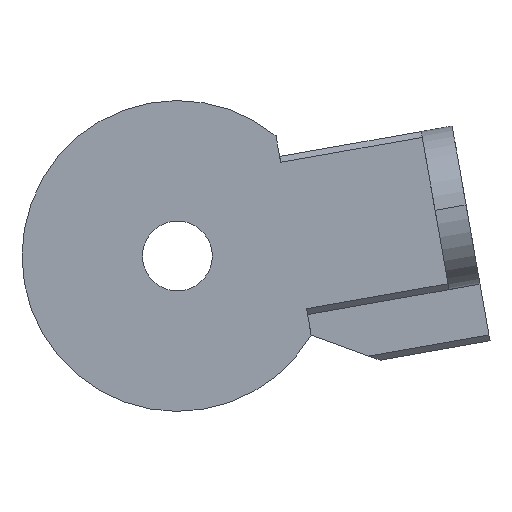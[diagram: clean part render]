
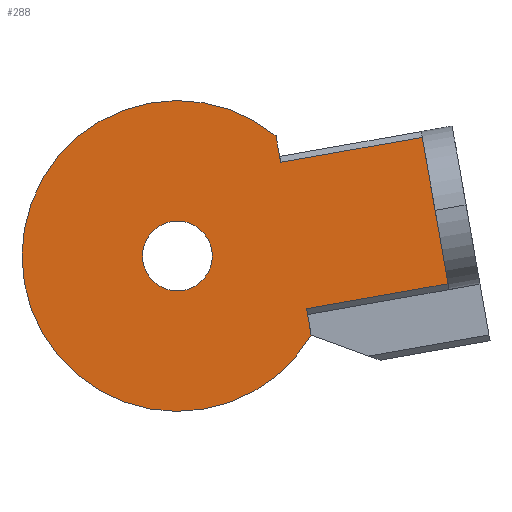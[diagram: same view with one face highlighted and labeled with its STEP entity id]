
A CAD part, front view. The second image highlights one B-rep face of the part: STEP entity #288.
In plain terms, the highlighted planar face has unit normal (0, -1, 0) as drawn and (0, 0, -1) by its records, which use the part's own axes.
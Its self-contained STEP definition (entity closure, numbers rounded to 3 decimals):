
#10 = CIRCLE ( 'NONE', #286, 10. ) ;
#13 = FACE_OUTER_BOUND ( 'NONE', #344, .T. ) ;
#23 = CIRCLE ( 'NONE', #760, 44.54 ) ;
#32 = DIRECTION ( 'NONE',  ( 0., 0., -1. ) ) ;
#33 = VERTEX_POINT ( 'NONE', #402 ) ;
#45 = EDGE_CURVE ( 'NONE', #705, #604, #561, .T. ) ;
#61 = CARTESIAN_POINT ( 'NONE',  ( 28.873, 33.805, -22.873 ) ) ;
#73 = EDGE_CURVE ( 'NONE', #280, #183, #547, .T. ) ;
#77 = LINE ( 'NONE', #212, #404 ) ;
#78 = CARTESIAN_POINT ( 'NONE',  ( 21.173, 75., -22.873 ) ) ;
#84 = ORIENTED_EDGE ( 'NONE', *, *, #73, .F. ) ;
#107 = DIRECTION ( 'NONE',  ( -1., 0., 0. ) ) ;
#141 = DIRECTION ( 'NONE',  ( 0., 0., -1. ) ) ;
#146 = VECTOR ( 'NONE', #366, 1000. ) ;
#166 = DIRECTION ( 'NONE',  ( 0., -1., 0. ) ) ;
#169 = VECTOR ( 'NONE', #285, 1000. ) ;
#183 = VERTEX_POINT ( 'NONE', #197 ) ;
#197 = CARTESIAN_POINT ( 'NONE',  ( -29.127, 33.805, -22.873 ) ) ;
#212 = CARTESIAN_POINT ( 'NONE',  ( 21.173, 32.364, -22.873 ) ) ;
#214 = CARTESIAN_POINT ( 'NONE',  ( -0.127, 0., -22.873 ) ) ;
#217 = DIRECTION ( 'NONE',  ( -1., 0., 0. ) ) ;
#224 = DIRECTION ( 'NONE',  ( 0., 0., -1. ) ) ;
#226 = DIRECTION ( 'NONE',  ( -1., 0., 0. ) ) ;
#230 = ORIENTED_EDGE ( 'NONE', *, *, #869, .T. ) ;
#245 = CARTESIAN_POINT ( 'NONE',  ( -0.127, 33.805, -22.873 ) ) ;
#250 = LINE ( 'NONE', #742, #169 ) ;
#280 = VERTEX_POINT ( 'NONE', #819 ) ;
#284 = VERTEX_POINT ( 'NONE', #78 ) ;
#285 = DIRECTION ( 'NONE',  ( 0., 1., 0. ) ) ;
#286 = AXIS2_PLACEMENT_3D ( 'NONE', #349, #141, #650 ) ;
#288 = ADVANCED_FACE ( 'NONE', ( #13, #697 ), #573, .T. ) ;
#296 = CARTESIAN_POINT ( 'NONE',  ( -0.127, 75., -22.873 ) ) ;
#299 = DIRECTION ( 'NONE',  ( 0., 1., 0. ) ) ;
#300 = LINE ( 'NONE', #657, #408 ) ;
#307 = CARTESIAN_POINT ( 'NONE',  ( -0.127, -10., -22.873 ) ) ;
#318 = ORIENTED_EDGE ( 'NONE', *, *, #948, .T. ) ;
#319 = EDGE_CURVE ( 'NONE', #33, #183, #916, .T. ) ;
#339 = ORIENTED_EDGE ( 'NONE', *, *, #319, .T. ) ;
#344 = EDGE_LOOP ( 'NONE', ( #592, #555, #667, #318, #339, #84, #230, #931 ) ) ;
#349 = CARTESIAN_POINT ( 'NONE',  ( -0.127, 0., -22.873 ) ) ;
#350 = VERTEX_POINT ( 'NONE', #577 ) ;
#366 = DIRECTION ( 'NONE',  ( -1., 0., 0. ) ) ;
#369 = AXIS2_PLACEMENT_3D ( 'NONE', #470, #32, #701 ) ;
#374 = DIRECTION ( 'NONE',  ( 0., 0., -1. ) ) ;
#402 = CARTESIAN_POINT ( 'NONE',  ( -0.127, -44.54, -22.873 ) ) ;
#404 = VECTOR ( 'NONE', #166, 1000. ) ;
#408 = VECTOR ( 'NONE', #217, 1000. ) ;
#454 = CARTESIAN_POINT ( 'NONE',  ( -0.127, 0., -22.873 ) ) ;
#470 = CARTESIAN_POINT ( 'NONE',  ( -0.127, 0., -22.873 ) ) ;
#520 = VECTOR ( 'NONE', #107, 1000. ) ;
#528 = AXIS2_PLACEMENT_3D ( 'NONE', #214, #735, #820 ) ;
#547 = LINE ( 'NONE', #903, #520 ) ;
#555 = ORIENTED_EDGE ( 'NONE', *, *, #904, .T. ) ;
#560 = CARTESIAN_POINT ( 'NONE',  ( -21.427, 75., -22.873 ) ) ;
#561 = LINE ( 'NONE', #245, #864 ) ;
#573 = PLANE ( 'NONE',  #640 ) ;
#577 = CARTESIAN_POINT ( 'NONE',  ( -0.127, 10., -22.873 ) ) ;
#592 = ORIENTED_EDGE ( 'NONE', *, *, #862, .F. ) ;
#604 = VERTEX_POINT ( 'NONE', #860 ) ;
#610 = EDGE_CURVE ( 'NONE', #946, #350, #675, .T. ) ;
#640 = AXIS2_PLACEMENT_3D ( 'NONE', #660, #224, #226 ) ;
#650 = DIRECTION ( 'NONE',  ( 0., 1., 0. ) ) ;
#657 = CARTESIAN_POINT ( 'NONE',  ( -0.127, 75., -22.873 ) ) ;
#660 = CARTESIAN_POINT ( 'NONE',  ( -0.127, 32.364, -22.873 ) ) ;
#667 = ORIENTED_EDGE ( 'NONE', *, *, #45, .F. ) ;
#675 = CIRCLE ( 'NONE', #369, 10. ) ;
#692 = DIRECTION ( 'NONE',  ( -1., 0., 0. ) ) ;
#697 = FACE_BOUND ( 'NONE', #717, .T. ) ;
#701 = DIRECTION ( 'NONE',  ( 0., 1., 0. ) ) ;
#705 = VERTEX_POINT ( 'NONE', #61 ) ;
#717 = EDGE_LOOP ( 'NONE', ( #753, #769 ) ) ;
#735 = DIRECTION ( 'NONE',  ( 0., 0., -1. ) ) ;
#740 = EDGE_CURVE ( 'NONE', #350, #946, #10, .T. ) ;
#742 = CARTESIAN_POINT ( 'NONE',  ( -21.427, 75., -22.873 ) ) ;
#753 = ORIENTED_EDGE ( 'NONE', *, *, #610, .F. ) ;
#755 = VERTEX_POINT ( 'NONE', #560 ) ;
#760 = AXIS2_PLACEMENT_3D ( 'NONE', #454, #374, #299 ) ;
#764 = CARTESIAN_POINT ( 'NONE',  ( -0.063, 75., -22.873 ) ) ;
#769 = ORIENTED_EDGE ( 'NONE', *, *, #740, .F. ) ;
#787 = EDGE_CURVE ( 'NONE', #908, #755, #858, .T. ) ;
#819 = CARTESIAN_POINT ( 'NONE',  ( -21.427, 33.805, -22.873 ) ) ;
#820 = DIRECTION ( 'NONE',  ( 0., 1., 0. ) ) ;
#858 = LINE ( 'NONE', #296, #146 ) ;
#860 = CARTESIAN_POINT ( 'NONE',  ( 21.173, 33.805, -22.873 ) ) ;
#862 = EDGE_CURVE ( 'NONE', #284, #908, #300, .T. ) ;
#864 = VECTOR ( 'NONE', #692, 1000. ) ;
#869 = EDGE_CURVE ( 'NONE', #280, #755, #250, .T. ) ;
#903 = CARTESIAN_POINT ( 'NONE',  ( -0.127, 33.805, -22.873 ) ) ;
#904 = EDGE_CURVE ( 'NONE', #284, #604, #77, .T. ) ;
#908 = VERTEX_POINT ( 'NONE', #764 ) ;
#916 = CIRCLE ( 'NONE', #528, 44.54 ) ;
#931 = ORIENTED_EDGE ( 'NONE', *, *, #787, .F. ) ;
#946 = VERTEX_POINT ( 'NONE', #307 ) ;
#948 = EDGE_CURVE ( 'NONE', #705, #33, #23, .T. ) ;
